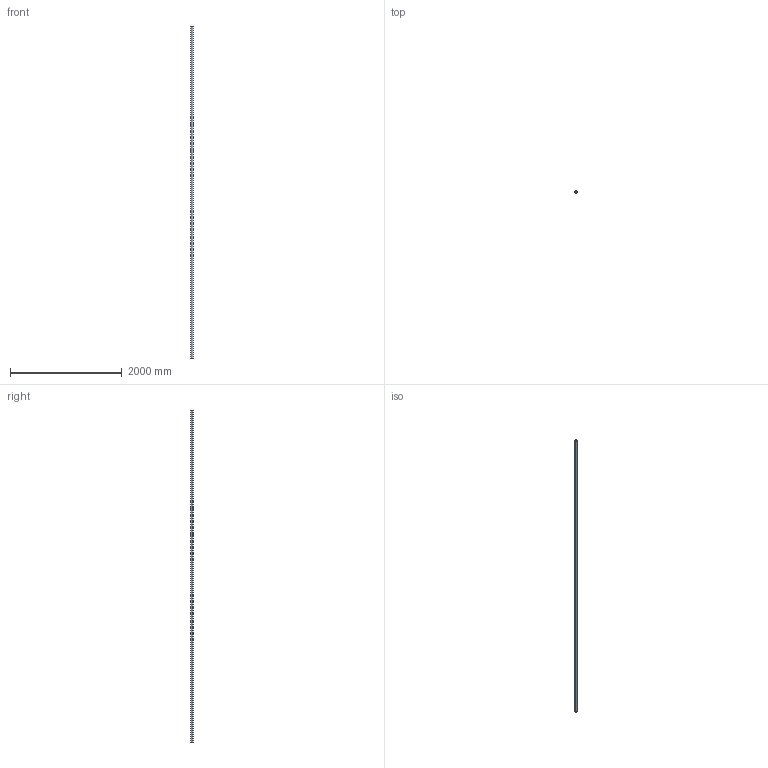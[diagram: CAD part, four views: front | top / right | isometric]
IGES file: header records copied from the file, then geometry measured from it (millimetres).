
Start section: SolidWorks IGES file using analytic representation for surfaces
Global section: file name: C:\Users\IanO\Desktop\L1771_v2\L1771.40_v2\L1771.40_v2_20230705_IGES\L1771.40-5950.igs; native system: SolidWorks 2019; preprocessor: SolidWorks 2019; author: IanO; date: 230705.163448; units: millimetre
Bounding box: 40 x 40 x 5950 mm (x, y, z)
Surface area: 1272370.2 mm2 (no closed solid volume)
Topology: 0 solids, 0 shells, 6 faces, 272 edges, 272 vertices
Faces by surface type: revolution 4, bspline 2
